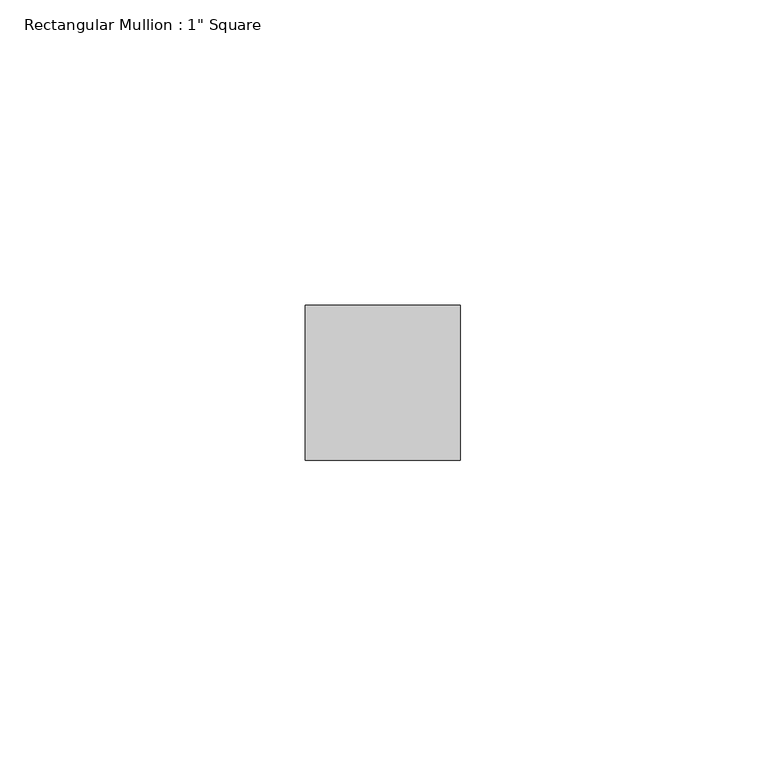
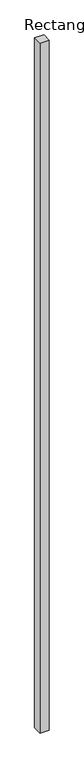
"""IFC4 building model written with IfcOpenShell, lengths in millimetres: member geometry."""

from ifc_helpers import new_model, si_unit, frame, origin, place, context, project, spatial, polyline, outline, extrude, source, transform, mapped, element, save


def member_e3cda178(model_context):
    return source(origin(), model_context, "Body", "SweptSolid", [
        extrude(outline(polyline([(12.7, 12.7), (12.7, -12.7), (-12.7, -12.7), (-12.7, 12.7), (12.7, 12.7)])), frame((0.0, 0.0, -2024.8293419), z_axis=(0.0, 0.0, 1.0), x_axis=(1.0, 0.0, 0.0)), (0.0, 0.0, 1.0), 2024.8293419),
    ])


if __name__ == "__main__":
    model = new_model("IFC4")
    model_context = context("Model", 3, world=origin())
    ifc_project = project(units=[si_unit("LENGTHUNIT", "METRE", prefix="MILLI")], contexts=[model_context])
    site = spatial("IfcSite", under=ifc_project)
    building = spatial("IfcBuilding", under=site)
    placement = place(None, origin())
    member_shape = member_e3cda178(model_context)
    element("IfcMember", 1, ObjectType="Rectangular Mullion : 1\" Square", at=placement, inside=building, context=model_context, shape_type="MappedRepresentation", body=[
        mapped(member_shape, transform((0.0, 0.0, 0.0), x_axis=(1.0, 0.0, 0.0), y_axis=(0.0, 1.0, 0.0), z_axis=(0.0, 0.0, 1.0))),
    ])
    save(model, "model.ifc")
